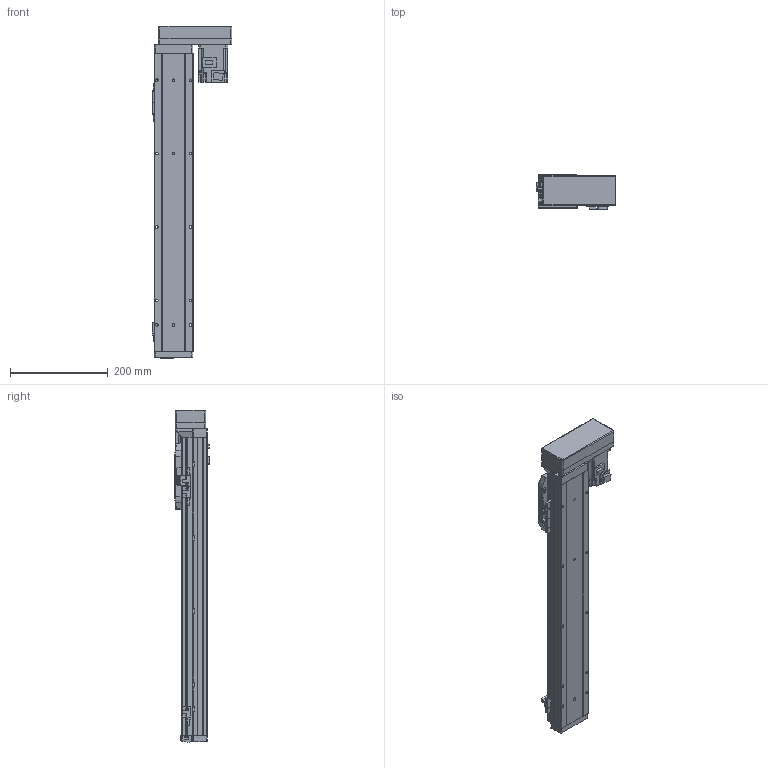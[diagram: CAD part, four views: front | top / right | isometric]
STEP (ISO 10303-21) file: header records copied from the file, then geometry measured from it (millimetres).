
FILE_DESCRIPTION (( 'STEP AP214' ), '1' );
FILE_NAME ('GSH8-450-BL-M20-1.step', '2025-01-07T06:05:46', ( '' ), ( '' ), 'SwSTEP 2.0', 'SolidWorks 2012', '' );
FILE_SCHEMA (( 'AUTOMOTIVE_DESIGN' ));
Length unit declared in the file: millimetre
Products named in the file (5): HG-KR23_200W_Motor; GSH8-BL-011-450-M20; GSH8-GY-004; GSH8-BL-008; GSH8-450-BL-M20-1
Assembly tree (4 placements, depth 2):
  GSH8-450-BL-M20-1
    GSH8-BL-011-450-M20
    GSH8-GY-004
    GSH8-BL-008
    HG-KR23_200W_Motor
Bounding box: 163 x 71.3 x 678.2 mm (x, y, z)
Volume: 1851728.6 mm3; surface area: 442315 mm2
Topology: 4 solids, 8 shells, 1118 faces, 2927 edges, 1882 vertices
Faces by surface type: plane 636, cylinder 386, torus 42, cone 26, bspline 24, sphere 4
Entity records: 44433 total; most frequent: CARTESIAN_POINT 10528, DIRECTION 5939, ORIENTED_EDGE 5838, EDGE_CURVE 2919, AXIS2_PLACEMENT_3D 1997, LINE 1945, VECTOR 1945, VERTEX_POINT 1878
